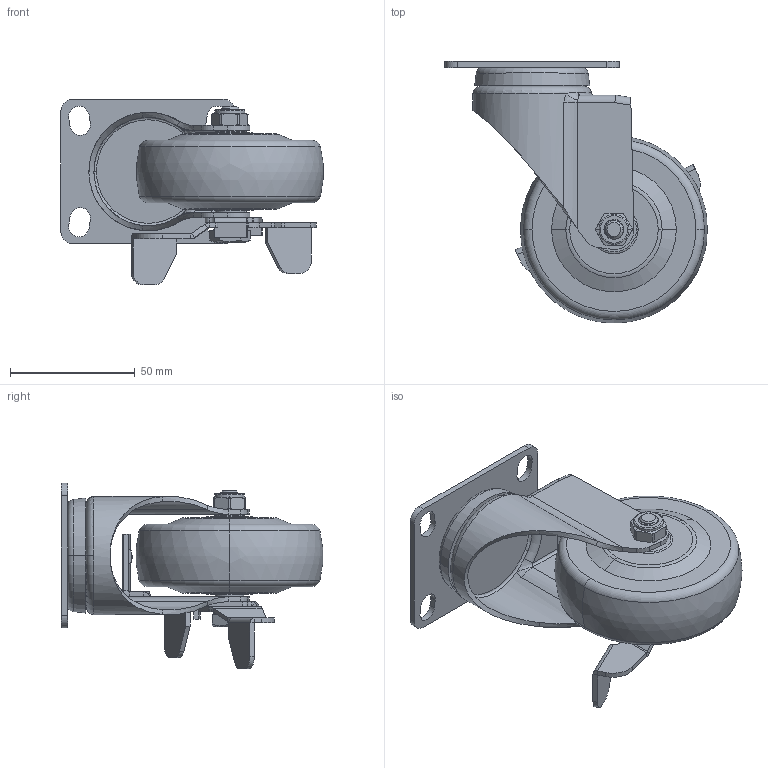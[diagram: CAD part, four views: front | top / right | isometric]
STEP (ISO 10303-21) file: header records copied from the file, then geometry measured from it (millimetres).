
FILE_DESCRIPTION((''),'2;1');
FILE_NAME('36123C-363-64_ASM','2020-01-05T',('L'),(''),'PRO/ENGINEER BY PARAMETRIC TECHNOLOGY CORPORATION, 2010280','PRO/ENGINEER BY PARAMETRIC TECHNOLOGY CORPORATION, 2010280','');
FILE_SCHEMA(('CONFIG_CONTROL_DESIGN'));
Length unit declared in the file: millimetre
Products named in the file (7): 36123C; 363-964; 302-33; 300-34; 303-15; 300-14; 36123C-363-64_ASM
Assembly tree (6 placements, depth 2):
  36123C-363-64_ASM
    36123C
    363-964
    302-33
    300-34
    303-15
    300-14
Bounding box: 105.16 x 104.79 x 74.4 mm (x, y, z)
Volume: 157158.1 mm3; surface area: 47924.2 mm2
Topology: 7 solids, 7 shells, 364 faces, 870 edges, 534 vertices
Faces by surface type: plane 145, cylinder 123, bspline 44, torus 30, cone 22
Entity records: 15954 total; most frequent: CARTESIAN_POINT 7547, ORIENTED_EDGE 1740, DIRECTION 1672, EDGE_CURVE 870, AXIS2_PLACEMENT_3D 621, VERTEX_POINT 534, VECTOR 430, LINE 430
